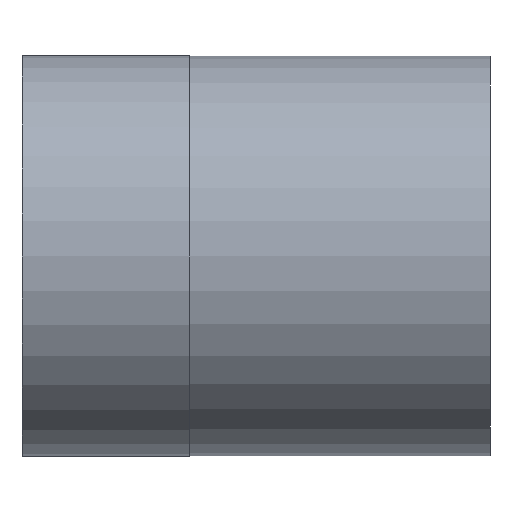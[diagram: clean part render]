
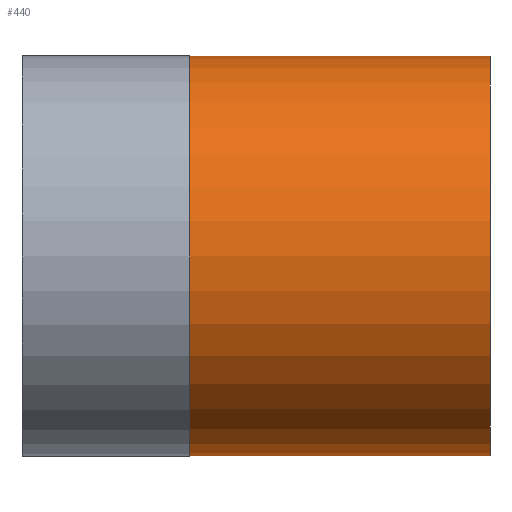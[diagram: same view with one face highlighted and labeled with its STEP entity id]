
A CAD part, left-side view. The second image highlights one B-rep face of the part: STEP entity #440.
In plain terms, the highlighted cylindrical face has radius 5.98 mm (diameter 11.96 mm), a partial arc.
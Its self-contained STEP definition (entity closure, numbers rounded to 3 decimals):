
#417 = VERTEX_POINT ( 'NONE', #916 ) ;
#418 = EDGE_CURVE ( 'NONE', #465, #417, #915, .T. ) ;
#420 = VERTEX_POINT ( 'NONE', #911 ) ;
#432 = ORIENTED_EDGE ( 'NONE', *, *, #418, .F. ) ;
#433 = ORIENTED_EDGE ( 'NONE', *, *, #458, .T. ) ;
#434 = ORIENTED_EDGE ( 'NONE', *, *, #446, .T. ) ;
#436 = EDGE_LOOP ( 'NONE', ( #432, #434, #433, #441 ) ) ;
#440 = ADVANCED_FACE ( 'NONE', ( #894 ), #893, .T. ) ;
#441 = ORIENTED_EDGE ( 'NONE', *, *, #468, .F. ) ;
#446 = EDGE_CURVE ( 'NONE', #465, #483, #820, .T. ) ;
#458 = EDGE_CURVE ( 'NONE', #483, #420, #1035, .T. ) ;
#465 = VERTEX_POINT ( 'NONE', #1023 ) ;
#468 = EDGE_CURVE ( 'NONE', #417, #420, #1022, .T. ) ;
#483 = VERTEX_POINT ( 'NONE', #923 ) ;
#814 = DIRECTION ( 'NONE',  ( 0., 0., -1. ) ) ;
#815 = DIRECTION ( 'NONE',  ( 0., -1., 0. ) ) ;
#816 = CARTESIAN_POINT ( 'NONE',  ( 0., 8.98, 0. ) ) ;
#817 = AXIS2_PLACEMENT_3D ( 'NONE', #816, #815, #814 ) ;
#820 = CIRCLE ( 'NONE', #817, 5.98 ) ;
#888 = DIRECTION ( 'NONE',  ( 0., 0., -1. ) ) ;
#889 = DIRECTION ( 'NONE',  ( 0., -1., 0. ) ) ;
#890 = CARTESIAN_POINT ( 'NONE',  ( 0., -20.255, 0. ) ) ;
#891 = AXIS2_PLACEMENT_3D ( 'NONE', #890, #889, #888 ) ;
#893 = CYLINDRICAL_SURFACE ( 'NONE', #891, 5.98 ) ;
#894 = FACE_OUTER_BOUND ( 'NONE', #436, .T. ) ;
#911 = CARTESIAN_POINT ( 'NONE',  ( 0., 0., -5.98 ) ) ;
#912 = DIRECTION ( 'NONE',  ( 0., -1., 0. ) ) ;
#913 = VECTOR ( 'NONE', #912, 1000. ) ;
#914 = CARTESIAN_POINT ( 'NONE',  ( 0., -20.255, 5.98 ) ) ;
#915 = LINE ( 'NONE', #914, #913 ) ;
#916 = CARTESIAN_POINT ( 'NONE',  ( 0., 0., 5.98 ) ) ;
#923 = CARTESIAN_POINT ( 'NONE',  ( 0., 8.98, -5.98 ) ) ;
#1018 = DIRECTION ( 'NONE',  ( 0., 0., -1. ) ) ;
#1019 = DIRECTION ( 'NONE',  ( 0., -1., 0. ) ) ;
#1020 = CARTESIAN_POINT ( 'NONE',  ( 0., 0., 0. ) ) ;
#1021 = AXIS2_PLACEMENT_3D ( 'NONE', #1020, #1019, #1018 ) ;
#1022 = CIRCLE ( 'NONE', #1021, 5.98 ) ;
#1023 = CARTESIAN_POINT ( 'NONE',  ( 0., 8.98, 5.98 ) ) ;
#1032 = DIRECTION ( 'NONE',  ( 0., -1., 0. ) ) ;
#1033 = VECTOR ( 'NONE', #1032, 1000. ) ;
#1034 = CARTESIAN_POINT ( 'NONE',  ( 0., -20.255, -5.98 ) ) ;
#1035 = LINE ( 'NONE', #1034, #1033 ) ;
